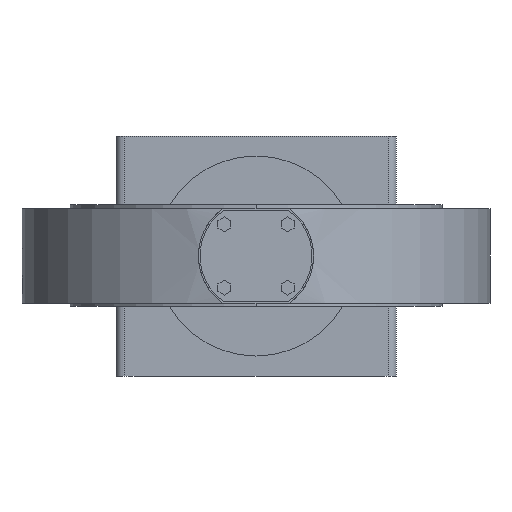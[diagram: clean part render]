
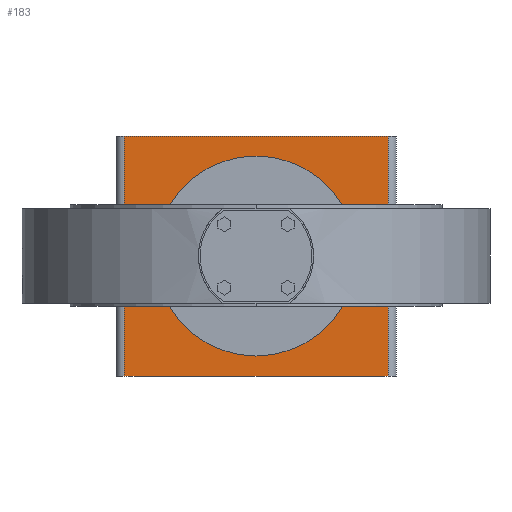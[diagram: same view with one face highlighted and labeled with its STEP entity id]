
A CAD part, front view. The second image highlights one B-rep face of the part: STEP entity #183.
In plain terms, the highlighted planar face has unit normal (0, -1, 0).
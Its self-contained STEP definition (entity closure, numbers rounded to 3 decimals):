
#183 = ADVANCED_FACE( '', ( #539, #540 ), #541, .T. );
#539 = FACE_OUTER_BOUND( '', #1089, .T. );
#540 = FACE_BOUND( '', #1090, .T. );
#541 = PLANE( '', #1091 );
#1089 = EDGE_LOOP( '', ( #2224, #2225, #2226, #2227 ) );
#1090 = EDGE_LOOP( '', ( #2228, #2229 ) );
#1091 = AXIS2_PLACEMENT_3D( '', #2230, #2231, #2232 );
#2224 = ORIENTED_EDGE( '', *, *, #3689, .T. );
#2225 = ORIENTED_EDGE( '', *, *, #3690, .F. );
#2226 = ORIENTED_EDGE( '', *, *, #3691, .F. );
#2227 = ORIENTED_EDGE( '', *, *, #3692, .T. );
#2228 = ORIENTED_EDGE( '', *, *, #3506, .T. );
#2229 = ORIENTED_EDGE( '', *, *, #3693, .T. );
#2230 = CARTESIAN_POINT( '', ( -165., 490., 150. ) );
#2231 = DIRECTION( '', ( 0., -1., 0. ) );
#2232 = DIRECTION( '', ( -1., 0., 0. ) );
#3506 = EDGE_CURVE( '', #4279, #4283, #4285, .T. );
#3689 = EDGE_CURVE( '', #4587, #4588, #4589, .T. );
#3690 = EDGE_CURVE( '', #4590, #4588, #4591, .T. );
#3691 = EDGE_CURVE( '', #4592, #4590, #4593, .T. );
#3692 = EDGE_CURVE( '', #4592, #4587, #4594, .T. );
#3693 = EDGE_CURVE( '', #4283, #4279, #4595, .T. );
#4279 = VERTEX_POINT( '', #5870 );
#4283 = VERTEX_POINT( '', #5875 );
#4285 = CIRCLE( '', #5878, 125. );
#4587 = VERTEX_POINT( '', #6456 );
#4588 = VERTEX_POINT( '', #6457 );
#4589 = LINE( '', #6458, #6459 );
#4590 = VERTEX_POINT( '', #6460 );
#4591 = LINE( '', #6461, #6462 );
#4592 = VERTEX_POINT( '', #6463 );
#4593 = LINE( '', #6464, #6465 );
#4594 = LINE( '', #6466, #6467 );
#4595 = CIRCLE( '', #6468, 125. );
#5870 = CARTESIAN_POINT( '', ( 125., 490., 0. ) );
#5875 = CARTESIAN_POINT( '', ( -125., 490., 0. ) );
#5878 = AXIS2_PLACEMENT_3D( '', #7454, #7455, #7456 );
#6456 = CARTESIAN_POINT( '', ( -165., 490., -150. ) );
#6457 = CARTESIAN_POINT( '', ( 165., 490., -150. ) );
#6458 = CARTESIAN_POINT( '', ( -165., 490., -150. ) );
#6459 = VECTOR( '', #7795, 1. );
#6460 = CARTESIAN_POINT( '', ( 165., 490., 150. ) );
#6461 = CARTESIAN_POINT( '', ( 165., 490., 150. ) );
#6462 = VECTOR( '', #7796, 1. );
#6463 = CARTESIAN_POINT( '', ( -165., 490., 150. ) );
#6464 = CARTESIAN_POINT( '', ( -165., 490., 150. ) );
#6465 = VECTOR( '', #7797, 1. );
#6466 = CARTESIAN_POINT( '', ( -165., 490., 150. ) );
#6467 = VECTOR( '', #7798, 1. );
#6468 = AXIS2_PLACEMENT_3D( '', #7799, #7800, #7801 );
#7454 = CARTESIAN_POINT( '', ( 0., 490., 0. ) );
#7455 = DIRECTION( '', ( 0., 1., 0. ) );
#7456 = DIRECTION( '', ( 1., 0., 0. ) );
#7795 = DIRECTION( '', ( 1., 0., 0. ) );
#7796 = DIRECTION( '', ( 0., 0., -1. ) );
#7797 = DIRECTION( '', ( 1., 0., 0. ) );
#7798 = DIRECTION( '', ( 0., 0., -1. ) );
#7799 = CARTESIAN_POINT( '', ( 0., 490., 0. ) );
#7800 = DIRECTION( '', ( 0., 1., 0. ) );
#7801 = DIRECTION( '', ( 1., 0., 0. ) );
